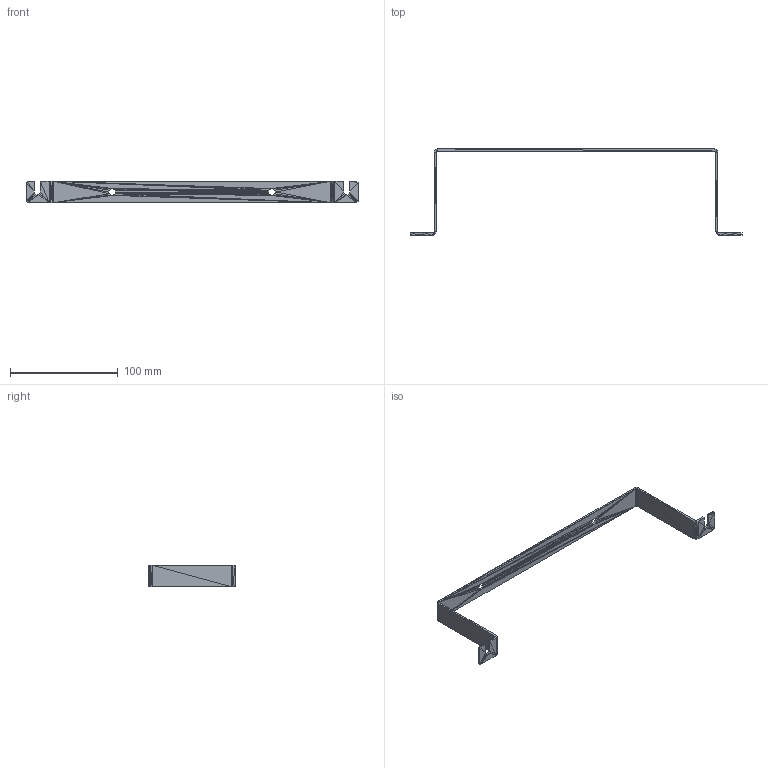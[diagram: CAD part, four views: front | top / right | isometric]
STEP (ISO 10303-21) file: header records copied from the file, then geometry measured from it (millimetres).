
FILE_DESCRIPTION((''),'2;1');
FILE_NAME('043359', '2025-08-07T09:06:45', (''), (''), 'ImageToStl.com STEP Converter','', '');
FILE_SCHEMA(('AUTOMOTIVE_DESIGN_CC2'));
Length unit declared in the file: metre
Products named in the file (1): product0
Bounding box: 308 x 80 x 20 mm (x, y, z)
Surface area: 20114.2 mm2 (no closed solid volume)
Topology: 0 solids, 332 shells, 332 faces, 996 edges, 166 vertices
Faces by surface type: plane 332
Entity records: 7664 total; most frequent: DIRECTION 1662, ORIENTED_EDGE 996, EDGE_CURVE 996, LINE 996, VECTOR 996, AXIS2_PLACEMENT_3D 333, FACE_SURFACE 332, PLANE 332
